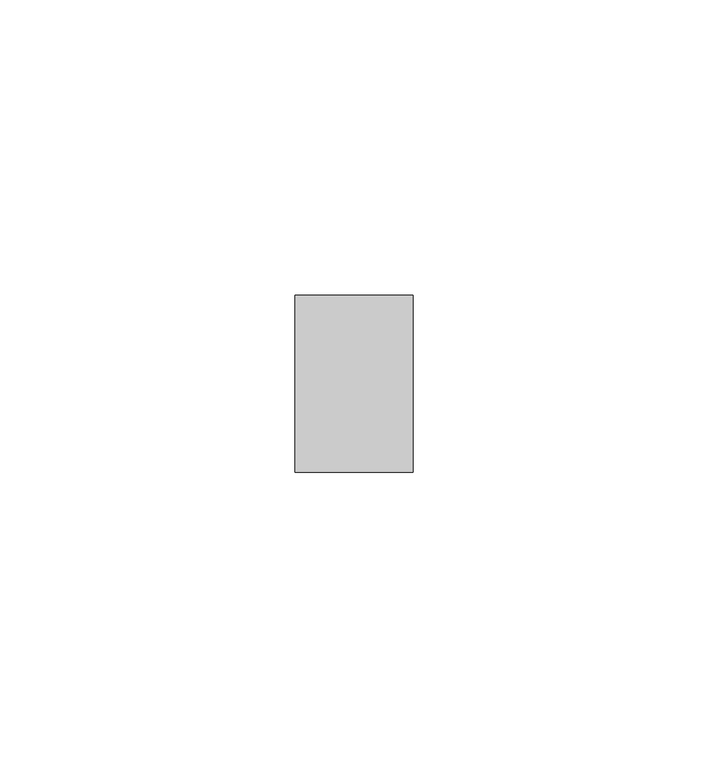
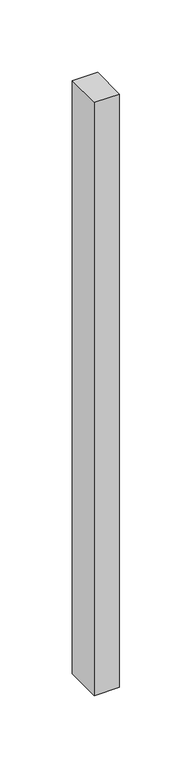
"""IFC4 building model written with IfcOpenShell, lengths in millimetres: member geometry, Прямоугольный импост : Квадрат 10 мм - Зазор между навесными плитами."""

from ifc_helpers import new_model, si_unit, frame, origin, place, context, project, spatial, polyline, outline, extrude, source, transform, mapped, element, save


def member_75e72d9f(model_context):
    return source(origin(), model_context, "Body", "SweptSolid", [
        extrude(outline(polyline([(10.0, 15.0), (10.0, -15.0), (-10.0, -15.0), (-10.0, 15.0), (10.0, 15.0)])), frame((0.0, 0.0, -500.0088803), z_axis=(0.0, 0.0, 1.0), x_axis=(1.0, 0.0, 0.0)), (0.0, 0.0, 1.0), 500.0088803),
    ])


if __name__ == "__main__":
    model = new_model("IFC4")
    model_context = context("Model", 3, world=origin())
    ifc_project = project(units=[si_unit("LENGTHUNIT", "METRE", prefix="MILLI")], contexts=[model_context])
    site = spatial("IfcSite", under=ifc_project)
    building = spatial("IfcBuilding", under=site)
    placement = place(None, origin())
    member_shape = member_75e72d9f(model_context)
    element("IfcMember", 1, ObjectType="Прямоугольный импост : Квадрат 10 мм - Зазор между навесными плитами", at=placement, inside=building, context=model_context, shape_type="MappedRepresentation", body=[
        mapped(member_shape, transform((0.0, 0.0, 0.0), x_axis=(1.0, 0.0, 0.0), y_axis=(0.0, 1.0, 0.0), z_axis=(0.0, 0.0, 1.0))),
    ])
    save(model, "model.ifc")
